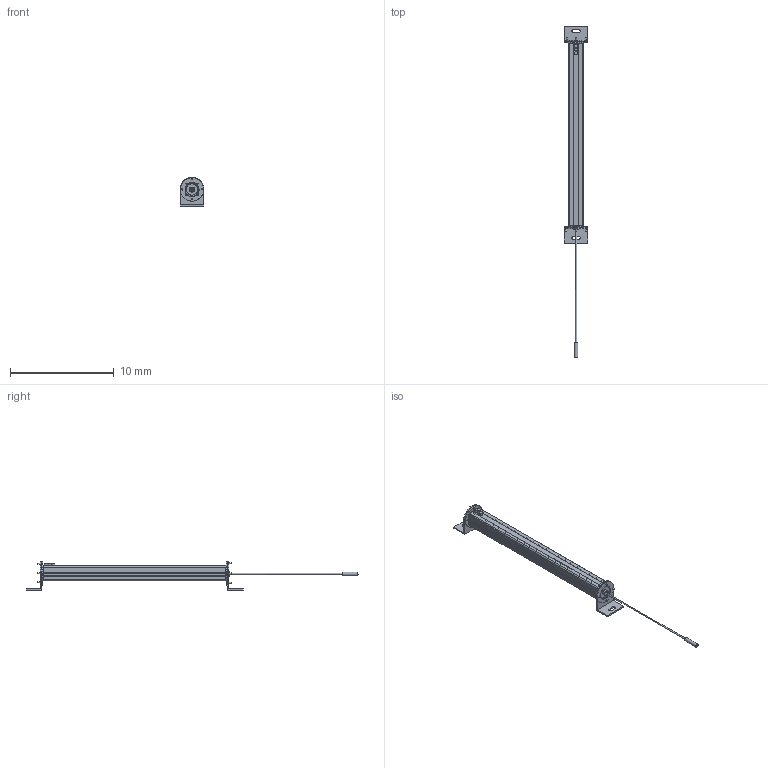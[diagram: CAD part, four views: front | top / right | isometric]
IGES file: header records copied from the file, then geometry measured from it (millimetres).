
Start section:  Autodesk DirectConnect version 7.0.27.0 ---- IGES version 5.3
Global section: file name: C:\ACADFILES\SS_PYLONS\CUSTOMER_FILES\SS-16-PYLON_3D_SMB.iges; native system: Autodesk DirectConnect 7.0.27.0; preprocessor: 7.0.27.0; author: ENGINEERMAIN; organization: Unknown; date: 20150810.124304; units: millimetre
Bounding box: 2.26 x 32.01 x 2.75 mm (x, y, z)
Surface area: 326.3 mm2 (no closed solid volume)
Topology: 0 solids, 0 shells, 754 faces, 3833 edges, 3829 vertices
Faces by surface type: bspline 754
